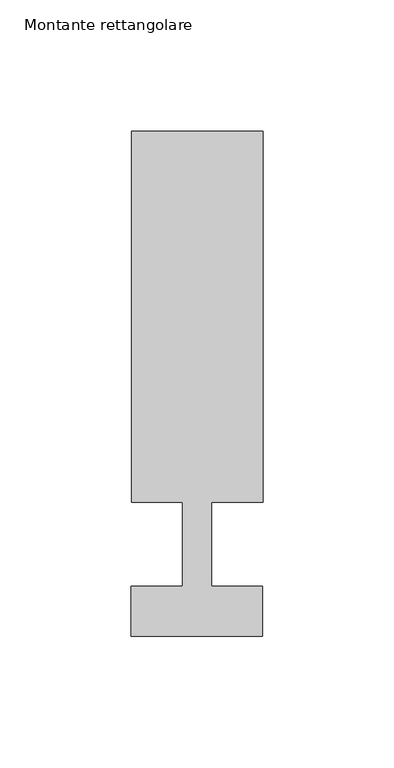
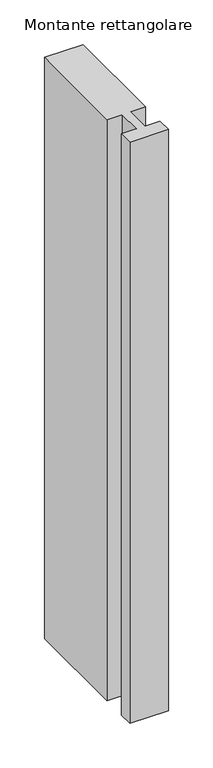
"""IFC4 building model written with IfcOpenShell, lengths in millimetres: member geometry, Montante rettangolare : Aluk_SL50_Montante K733_vetro 32."""

from ifc_helpers import new_model, si_unit, frame, origin, place, context, project, spatial, polyline, outline, extrude, source, transform, mapped, element, save


def montante_rettangolare_e03687d9(model_context):
    return source(origin(), model_context, "Body", "SweptSolid", [
        extrude(outline(polyline([(-24.9305407, 157.0060769), (25.0694593, 157.0060769), (25.0694593, 15.9966791), (5.5694593, 15.9966791), (5.5694593, -15.9987505), (25.0393298, -15.9987505), (25.0393298, -34.9958572), (-24.9747831, -34.9958572), (-24.9747831, -15.9987505), (-5.4305407, -15.9987505), (-5.4305407, 15.9966791), (-24.9305407, 15.9966791), (-24.9305407, 157.0060769)])), frame((0.0, 0.0, -796.7694593), z_axis=(0.0, 0.0, 1.0), x_axis=(1.0, 0.0, 0.0)), (0.0, 0.0, 1.0), 796.7694593),
    ])


if __name__ == "__main__":
    model = new_model("IFC4")
    model_context = context("Model", 3, world=origin())
    ifc_project = project(units=[si_unit("LENGTHUNIT", "METRE", prefix="MILLI")], contexts=[model_context])
    site = spatial("IfcSite", under=ifc_project)
    building = spatial("IfcBuilding", under=site)
    placement = place(None, origin())
    montante_rettangolare_shape = montante_rettangolare_e03687d9(model_context)
    element("IfcMember", 1, ObjectType="Montante rettangolare : Aluk_SL50_Montante K733_vetro 32", at=placement, inside=building, context=model_context, shape_type="MappedRepresentation", body=[
        mapped(montante_rettangolare_shape, transform((0.0, 0.0, 0.0), x_axis=(1.0, 0.0, 0.0), y_axis=(0.0, 1.0, 0.0), z_axis=(0.0, 0.0, 1.0))),
    ])
    save(model, "model.ifc")
